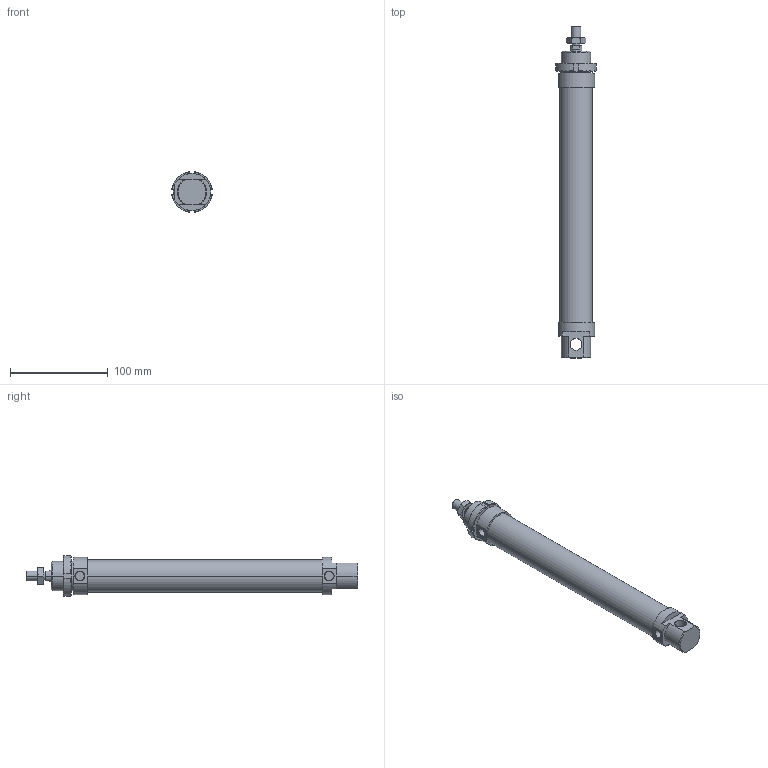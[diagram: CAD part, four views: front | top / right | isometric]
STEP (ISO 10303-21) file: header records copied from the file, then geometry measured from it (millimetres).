
FILE_DESCRIPTION((''),'2;1');
FILE_NAME('I:\DOC-EDP\Lib-3d\1200\CILINDRI\1280\1280_32_0200.stp','2003-04-07T19:04:52',('maffial1'),(''),'Autodesk Inventor (R) 6.0','Autodesk Inventor (R) 6.0','');
FILE_SCHEMA(('AUTOMOTIVE_DESIGN { 1 0 10303 214 1 1 1 1 }'));
Length unit declared in the file: millimetre
Products named in the file (5): 1280_32_0200; S1280_32_200; 1200_32_05; 1200_32_06; C1280_32_200
Assembly tree (4 placements, depth 2):
  1280_32_0200
    S1280_32_200
    1200_32_05
    1200_32_06
    C1280_32_200
Bounding box: 41.7 x 339 x 41.7 mm (x, y, z)
Volume: 279029.4 mm3; surface area: 59688 mm2
Topology: 4 solids, 4 shells, 122 faces, 286 edges, 180 vertices
Faces by surface type: plane 44, cone 32, cylinder 26, bspline 20
Entity records: 3831 total; most frequent: CARTESIAN_POINT 997, DIRECTION 582, ORIENTED_EDGE 572, EDGE_CURVE 286, AXIS2_PLACEMENT_3D 229, VERTEX_POINT 180, EDGE_LOOP 136, VECTOR 124
